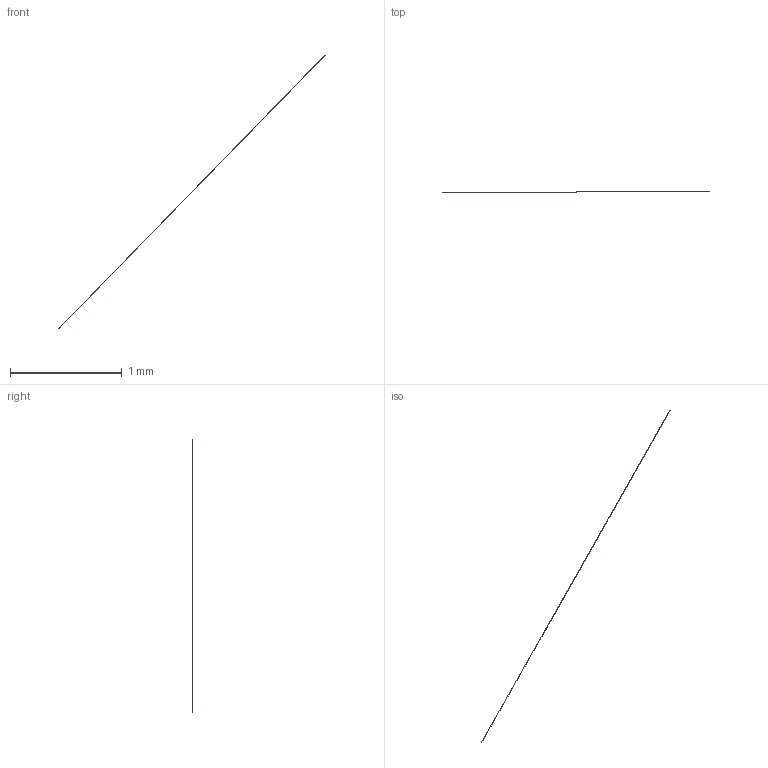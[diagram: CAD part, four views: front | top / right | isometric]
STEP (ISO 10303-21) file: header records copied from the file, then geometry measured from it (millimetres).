
FILE_DESCRIPTION(/* description */ ('STEP AP242 Edition 2','CAx-IF Rec.Pracs.---Representation and Presentation of Product Manufacturing Information (PMI)---4.0---2014-10-13','CAx-IF Rec.Pracs.---3D Tessellated Geometry---0.4---2014-09-14','2;1','CAx-IF Rec.Pracs.---User Defined Attributes---1.5---2016-08-15'),/* implementation_level */ '2;1');
FILE_NAME(/* name */ 'Assembly 1 - Part 12',/* time_stamp */ '2026-03-29T21:14:57Z',/* author */ (''),/* organization */ (''),/* preprocessor_version */ 'ST-DEVELOPER v20',/* originating_system */ 'ONSHAPE BY PTC INC, 1.212',/* authorisation */ ' ');
FILE_SCHEMA (('AP242_MANAGED_MODEL_BASED_3D_ENGINEERING_MIM_LF { 1 0 10303 442 3 1 4 }'));
Length unit declared in the file: metre
Products named in the file (1): Part 12
Bounding box: 2.38 x 0 x 2.45 mm (x, y, z)
Surface area: 0 mm2 (no closed solid volume)
Topology: 0 solids, 1 shells, 1 faces, 0 edges, 0 vertices
Faces by surface type: other 1
Entity records: 31 total; most frequent: DIRECTION 2, SHAPE_REPRESENTATION_RELATIONSHIP 1, TESSELLATED_SHAPE_REPRESENTATION 1, STYLED_ITEM 1, PRESENTATION_STYLE_ASSIGNMENT 1, SURFACE_STYLE_USAGE 1, SURFACE_SIDE_STYLE 1, SURFACE_STYLE_FILL_AREA 1
